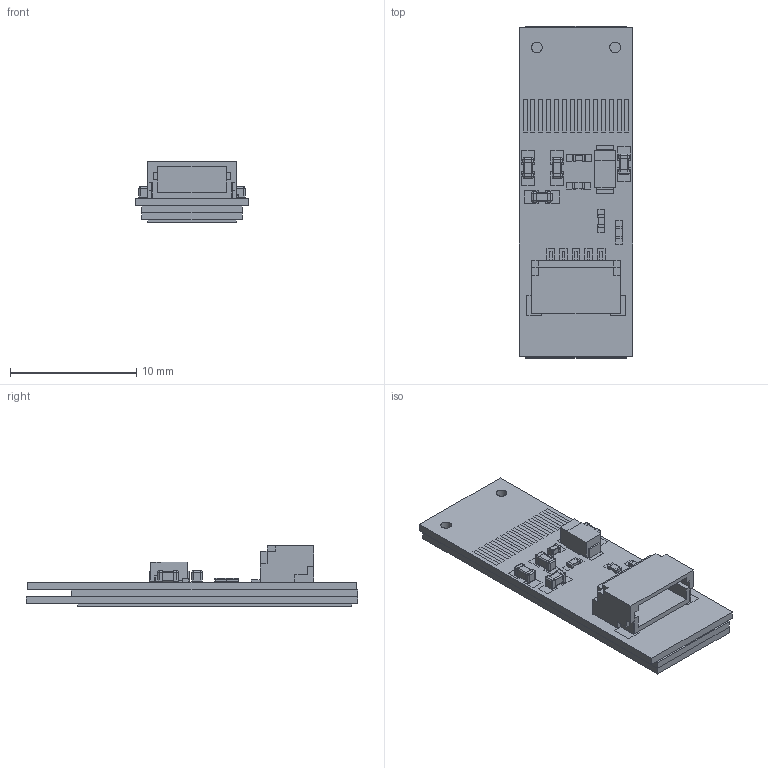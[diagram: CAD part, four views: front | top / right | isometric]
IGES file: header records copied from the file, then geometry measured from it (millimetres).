
Global section: file name: Filename.iges; native system: Open CASCADE 7.4; preprocessor: Open CASCADE IGES processor 7.4; date: 20200728.225816; units: millimetre
Bounding box: 9 x 26.3 x 4.79 mm (x, y, z)
Surface area: 2658.8 mm2 (no closed solid volume)
Topology: 0 solids, 0 shells, 1326 faces, 7168 edges, 11120 vertices
Faces by surface type: plane 1062, revolution 264
